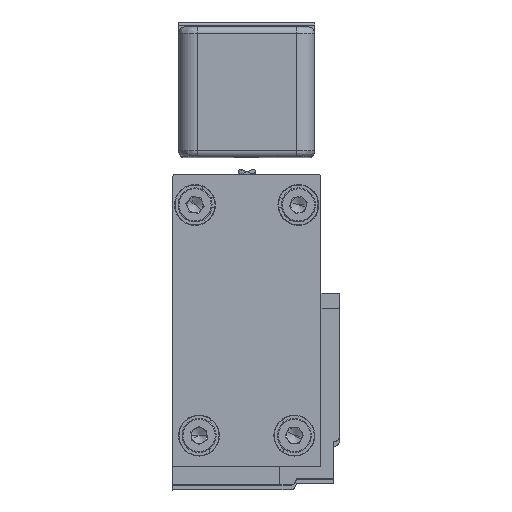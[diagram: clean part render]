
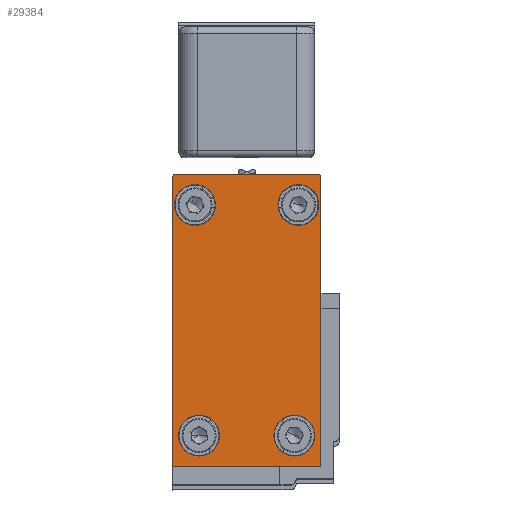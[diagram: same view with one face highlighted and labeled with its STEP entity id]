
A CAD part, top view. The second image highlights one B-rep face of the part: STEP entity #29384.
In plain terms, the highlighted planar face has unit normal (0, 0, 1).
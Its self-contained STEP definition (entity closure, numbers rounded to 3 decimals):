
#85 = CARTESIAN_POINT ( 'NONE',  ( 5.984, 7.11, 3185. ) ) ;
#251 = ORIENTED_EDGE ( 'NONE', *, *, #21141, .T. ) ;
#449 = VERTEX_POINT ( 'NONE', #10820 ) ;
#2265 = VERTEX_POINT ( 'NONE', #14626 ) ;
#2280 = LINE ( 'NONE', #85, #16094 ) ;
#2585 = EDGE_CURVE ( 'NONE', #30651, #449, #20372, .T. ) ;
#2878 = DIRECTION ( 'NONE',  ( 0., 0., 1. ) ) ;
#2921 = VERTEX_POINT ( 'NONE', #22145 ) ;
#3179 = DIRECTION ( 'NONE',  ( 0., 0., 1. ) ) ;
#3465 = AXIS2_PLACEMENT_3D ( 'NONE', #8125, #27185, #10910 ) ;
#4283 = ORIENTED_EDGE ( 'NONE', *, *, #29128, .T. ) ;
#4638 = CARTESIAN_POINT ( 'NONE',  ( -14.365, 21.401, 3185. ) ) ;
#5151 = CARTESIAN_POINT ( 'NONE',  ( 5.984, -20.888, 3185. ) ) ;
#5324 = FACE_BOUND ( 'NONE', #12850, .T. ) ;
#5395 = EDGE_CURVE ( 'NONE', #449, #33132, #17961, .T. ) ;
#5583 = VERTEX_POINT ( 'NONE', #28692 ) ;
#6068 = CARTESIAN_POINT ( 'NONE',  ( 1.676, -15.887, 3185. ) ) ;
#6194 = FACE_BOUND ( 'NONE', #17893, .T. ) ;
#6325 = CARTESIAN_POINT ( 'NONE',  ( -18.014, 25.871, 3185. ) ) ;
#6544 = CIRCLE ( 'NONE', #31945, 3.302 ) ;
#7256 = ORIENTED_EDGE ( 'NONE', *, *, #20673, .T. ) ;
#7433 = DIRECTION ( 'NONE',  ( -1., 0., 0. ) ) ;
#7640 = CARTESIAN_POINT ( 'NONE',  ( 1.676, -15.887, 3185. ) ) ;
#7759 = CARTESIAN_POINT ( 'NONE',  ( 2.335, 21.401, 3185. ) ) ;
#8125 = CARTESIAN_POINT ( 'NONE',  ( -17.514, 25.871, 3185. ) ) ;
#8224 = AXIS2_PLACEMENT_3D ( 'NONE', #12330, #31285, #15074 ) ;
#8436 = DIRECTION ( 'NONE',  ( 0., 1., 0. ) ) ;
#8795 = ORIENTED_EDGE ( 'NONE', *, *, #29622, .T. ) ;
#8842 = DIRECTION ( 'NONE',  ( -1., 0., 0. ) ) ;
#9151 = CIRCLE ( 'NONE', #24183, 3.302 ) ;
#9936 = ORIENTED_EDGE ( 'NONE', *, *, #15745, .T. ) ;
#10447 = DIRECTION ( 'NONE',  ( -1., 0., 0. ) ) ;
#10538 = DIRECTION ( 'NONE',  ( -1., 0., 0. ) ) ;
#10720 = VECTOR ( 'NONE', #25247, 1000. ) ;
#10820 = CARTESIAN_POINT ( 'NONE',  ( 5.485, 26.371, 3185. ) ) ;
#10910 = DIRECTION ( 'NONE',  ( 0., 1., 0. ) ) ;
#10967 = AXIS2_PLACEMENT_3D ( 'NONE', #27454, #11187, #30159 ) ;
#11187 = DIRECTION ( 'NONE',  ( 0., 0., -1. ) ) ;
#12018 = DIRECTION ( 'NONE',  ( 0., -1., 0. ) ) ;
#12058 = CIRCLE ( 'NONE', #8224, 3.302 ) ;
#12265 = VECTOR ( 'NONE', #18632, 1000. ) ;
#12330 = CARTESIAN_POINT ( 'NONE',  ( 2.335, 21.401, 3185. ) ) ;
#12686 = FACE_BOUND ( 'NONE', #31452, .T. ) ;
#12771 = AXIS2_PLACEMENT_3D ( 'NONE', #14153, #33078, #16863 ) ;
#12850 = EDGE_LOOP ( 'NONE', ( #32398, #22978 ) ) ;
#13006 = ORIENTED_EDGE ( 'NONE', *, *, #23855, .T. ) ;
#13339 = CARTESIAN_POINT ( 'NONE',  ( -17.667, 21.401, 3185. ) ) ;
#13597 = AXIS2_PLACEMENT_3D ( 'NONE', #31626, #15425, #34345 ) ;
#13762 = VERTEX_POINT ( 'NONE', #13339 ) ;
#13927 = CARTESIAN_POINT ( 'NONE',  ( -18.014, -20.888, 3185. ) ) ;
#14153 = CARTESIAN_POINT ( 'NONE',  ( -13.714, -15.887, 3185. ) ) ;
#14425 = AXIS2_PLACEMENT_3D ( 'NONE', #7640, #26712, #10447 ) ;
#14626 = CARTESIAN_POINT ( 'NONE',  ( -10.412, -15.887, 3185. ) ) ;
#14737 = CIRCLE ( 'NONE', #10967, 3.302 ) ;
#15074 = DIRECTION ( 'NONE',  ( -1., 0., 0. ) ) ;
#15425 = DIRECTION ( 'NONE',  ( 0., 0., -1. ) ) ;
#15745 = EDGE_CURVE ( 'NONE', #2921, #24689, #21310, .T. ) ;
#15874 = EDGE_LOOP ( 'NONE', ( #9936, #25494 ) ) ;
#16026 = EDGE_CURVE ( 'NONE', #18342, #22637, #33568, .T. ) ;
#16094 = VECTOR ( 'NONE', #8436, 1000. ) ;
#16380 = VERTEX_POINT ( 'NONE', #23370 ) ;
#16648 = DIRECTION ( 'NONE',  ( 1., 0., 0. ) ) ;
#16863 = DIRECTION ( 'NONE',  ( -1., 0., 0. ) ) ;
#16880 = CIRCLE ( 'NONE', #33908, 3.302 ) ;
#17488 = VERTEX_POINT ( 'NONE', #24353 ) ;
#17820 = EDGE_CURVE ( 'NONE', #13762, #34037, #6544, .T. ) ;
#17893 = EDGE_LOOP ( 'NONE', ( #13006, #31097 ) ) ;
#17961 = LINE ( 'NONE', #27881, #10720 ) ;
#18342 = VERTEX_POINT ( 'NONE', #28747 ) ;
#18632 = DIRECTION ( 'NONE',  ( 0., 1., 0. ) ) ;
#18734 = CIRCLE ( 'NONE', #12771, 3.302 ) ;
#19315 = ORIENTED_EDGE ( 'NONE', *, *, #32345, .T. ) ;
#19352 = CARTESIAN_POINT ( 'NONE',  ( -18.014, -20.888, 3185. ) ) ;
#19492 = LINE ( 'NONE', #21236, #12265 ) ;
#19654 = CARTESIAN_POINT ( 'NONE',  ( 5.485, 25.871, 3185. ) ) ;
#19875 = CARTESIAN_POINT ( 'NONE',  ( -17.514, 26.371, 3185. ) ) ;
#20067 = VERTEX_POINT ( 'NONE', #25543 ) ;
#20290 = CIRCLE ( 'NONE', #13597, 3.302 ) ;
#20372 = CIRCLE ( 'NONE', #29262, 0.5 ) ;
#20567 = ORIENTED_EDGE ( 'NONE', *, *, #5395, .T. ) ;
#20673 = EDGE_CURVE ( 'NONE', #5583, #18342, #29337, .T. ) ;
#21023 = EDGE_CURVE ( 'NONE', #5583, #33132, #22125, .T. ) ;
#21141 = EDGE_CURVE ( 'NONE', #20067, #2265, #18734, .T. ) ;
#21186 = CARTESIAN_POINT ( 'NONE',  ( 4.978, -15.887, 3185. ) ) ;
#21236 = CARTESIAN_POINT ( 'NONE',  ( 5.984, -20.888, 3185. ) ) ;
#21310 = CIRCLE ( 'NONE', #14425, 3.302 ) ;
#21592 = FACE_BOUND ( 'NONE', #15874, .T. ) ;
#22058 = DIRECTION ( 'NONE',  ( -1., 0., 0. ) ) ;
#22125 = CIRCLE ( 'NONE', #3465, 0.5 ) ;
#22145 = CARTESIAN_POINT ( 'NONE',  ( -1.626, -15.887, 3185. ) ) ;
#22272 = CARTESIAN_POINT ( 'NONE',  ( -11.063, 21.401, 3185. ) ) ;
#22369 = DIRECTION ( 'NONE',  ( 0., 1., 0. ) ) ;
#22637 = VERTEX_POINT ( 'NONE', #5151 ) ;
#22754 = EDGE_CURVE ( 'NONE', #34037, #13762, #14737, .T. ) ;
#22978 = ORIENTED_EDGE ( 'NONE', *, *, #22754, .T. ) ;
#23335 = ORIENTED_EDGE ( 'NONE', *, *, #21023, .F. ) ;
#23370 = CARTESIAN_POINT ( 'NONE',  ( 5.637, 21.401, 3185. ) ) ;
#23802 = DIRECTION ( 'NONE',  ( 0., 0., -1. ) ) ;
#23855 = EDGE_CURVE ( 'NONE', #24187, #16380, #12058, .T. ) ;
#24183 = AXIS2_PLACEMENT_3D ( 'NONE', #6068, #25130, #8842 ) ;
#24187 = VERTEX_POINT ( 'NONE', #35386 ) ;
#24353 = CARTESIAN_POINT ( 'NONE',  ( 5.984, 7.11, 3185. ) ) ;
#24689 = VERTEX_POINT ( 'NONE', #21186 ) ;
#25130 = DIRECTION ( 'NONE',  ( 0., 0., -1. ) ) ;
#25247 = DIRECTION ( 'NONE',  ( -1., 0., 0. ) ) ;
#25494 = ORIENTED_EDGE ( 'NONE', *, *, #34425, .T. ) ;
#25543 = CARTESIAN_POINT ( 'NONE',  ( -17.017, -15.887, 3185. ) ) ;
#25933 = EDGE_LOOP ( 'NONE', ( #4283, #19315, #33558, #20567, #23335, #7256, #34276 ) ) ;
#25931 = CARTESIAN_POINT ( 'NONE',  ( 5.984, 25.871, 3185. ) ) ;
#26372 = VECTOR ( 'NONE', #16648, 1000. ) ;
#26712 = DIRECTION ( 'NONE',  ( 0., 0., -1. ) ) ;
#26813 = DIRECTION ( 'NONE',  ( 0., 0., -1. ) ) ;
#27185 = DIRECTION ( 'NONE',  ( 0., 0., -1. ) ) ;
#27454 = CARTESIAN_POINT ( 'NONE',  ( -14.365, 21.401, 3185. ) ) ;
#27624 = VECTOR ( 'NONE', #12018, 1000. ) ;
#27881 = CARTESIAN_POINT ( 'NONE',  ( 5.485, 26.371, 3185. ) ) ;
#28692 = CARTESIAN_POINT ( 'NONE',  ( -18.014, 25.871, 3185. ) ) ;
#28747 = CARTESIAN_POINT ( 'NONE',  ( -18.014, -20.888, 3185. ) ) ;
#29128 = EDGE_CURVE ( 'NONE', #22637, #17488, #19492, .T. ) ;
#29262 = AXIS2_PLACEMENT_3D ( 'NONE', #19654, #3179, #22369 ) ;
#29337 = LINE ( 'NONE', #6325, #27624 ) ;
#29384 = ADVANCED_FACE ( 'NONE', ( #5324, #6194, #21592, #12686, #33443 ), #32711, .T. ) ;
#29622 = EDGE_CURVE ( 'NONE', #2265, #20067, #20290, .T. ) ;
#30159 = DIRECTION ( 'NONE',  ( -1., 0., 0. ) ) ;
#30651 = VERTEX_POINT ( 'NONE', #25931 ) ;
#31097 = ORIENTED_EDGE ( 'NONE', *, *, #34262, .T. ) ;
#31285 = DIRECTION ( 'NONE',  ( 0., 0., -1. ) ) ;
#31452 = EDGE_LOOP ( 'NONE', ( #251, #8795 ) ) ;
#31626 = CARTESIAN_POINT ( 'NONE',  ( -13.714, -15.887, 3185. ) ) ;
#31945 = AXIS2_PLACEMENT_3D ( 'NONE', #4638, #23802, #7433 ) ;
#32345 = EDGE_CURVE ( 'NONE', #17488, #30651, #2280, .T. ) ;
#32398 = ORIENTED_EDGE ( 'NONE', *, *, #17820, .T. ) ;
#32711 = PLANE ( 'NONE',  #34227 ) ;
#33078 = DIRECTION ( 'NONE',  ( 0., 0., -1. ) ) ;
#33132 = VERTEX_POINT ( 'NONE', #19875 ) ;
#33443 = FACE_OUTER_BOUND ( 'NONE', #25933, .T. ) ;
#33558 = ORIENTED_EDGE ( 'NONE', *, *, #2585, .T. ) ;
#33568 = LINE ( 'NONE', #13927, #26372 ) ;
#33908 = AXIS2_PLACEMENT_3D ( 'NONE', #7759, #26813, #10538 ) ;
#34037 = VERTEX_POINT ( 'NONE', #22272 ) ;
#34227 = AXIS2_PLACEMENT_3D ( 'NONE', #19352, #2878, #22058 ) ;
#34262 = EDGE_CURVE ( 'NONE', #16380, #24187, #16880, .T. ) ;
#34276 = ORIENTED_EDGE ( 'NONE', *, *, #16026, .T. ) ;
#34345 = DIRECTION ( 'NONE',  ( -1., 0., 0. ) ) ;
#34425 = EDGE_CURVE ( 'NONE', #24689, #2921, #9151, .T. ) ;
#35386 = CARTESIAN_POINT ( 'NONE',  ( -0.967, 21.401, 3185. ) ) ;
